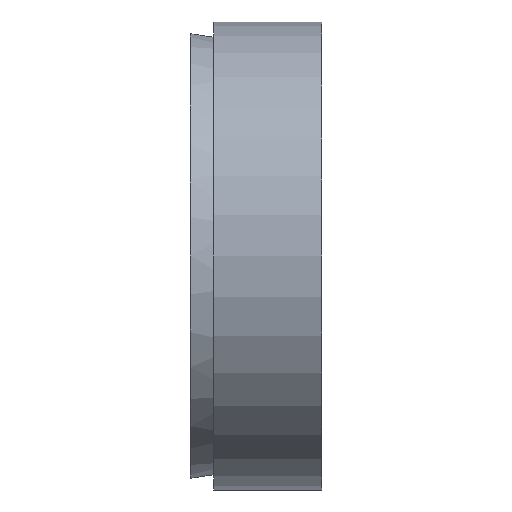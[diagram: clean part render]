
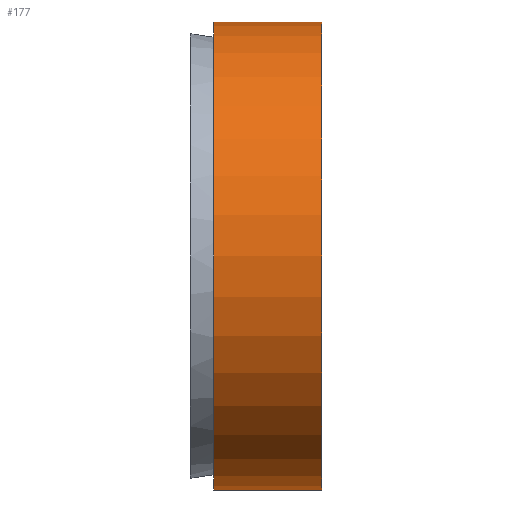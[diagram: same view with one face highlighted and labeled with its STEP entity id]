
A CAD part, front view. The second image highlights one B-rep face of the part: STEP entity #177.
In plain terms, the highlighted cylindrical face has radius 8 mm (diameter 16 mm), a partial arc.
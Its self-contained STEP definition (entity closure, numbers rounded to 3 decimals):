
#15 = VERTEX_POINT ( 'NONE', #137 ) ;
#17 = EDGE_CURVE ( 'NONE', #15, #18, #136, .T. ) ;
#18 = VERTEX_POINT ( 'NONE', #132 ) ;
#19 = VERTEX_POINT ( 'NONE', #131 ) ;
#112 = VERTEX_POINT ( 'NONE', #208 ) ;
#131 = CARTESIAN_POINT ( 'NONE',  ( 0.8, 0., 8. ) ) ;
#132 = CARTESIAN_POINT ( 'NONE',  ( 0.8, 0., -8. ) ) ;
#133 = DIRECTION ( 'NONE',  ( -1., 0., 0. ) ) ;
#134 = VECTOR ( 'NONE', #133, 1000. ) ;
#135 = CARTESIAN_POINT ( 'NONE',  ( 0., 0., -8. ) ) ;
#136 = LINE ( 'NONE', #135, #134 ) ;
#137 = CARTESIAN_POINT ( 'NONE',  ( 4.5, 0., -8. ) ) ;
#167 = EDGE_CURVE ( 'NONE', #112, #19, #298, .T. ) ;
#176 = EDGE_CURVE ( 'NONE', #18, #19, #265, .T. ) ;
#177 = ADVANCED_FACE ( 'NONE', ( #260 ), #259, .T. ) ;
#178 = EDGE_LOOP ( 'NONE', ( #179, #180, #206, #207 ) ) ;
#179 = ORIENTED_EDGE ( 'NONE', *, *, #17, .F. ) ;
#180 = ORIENTED_EDGE ( 'NONE', *, *, #181, .T. ) ;
#181 = EDGE_CURVE ( 'NONE', #15, #112, #253, .T. ) ;
#206 = ORIENTED_EDGE ( 'NONE', *, *, #167, .T. ) ;
#207 = ORIENTED_EDGE ( 'NONE', *, *, #176, .F. ) ;
#208 = CARTESIAN_POINT ( 'NONE',  ( 4.5, 0., 8. ) ) ;
#250 = DIRECTION ( 'NONE',  ( 0., 0., 1. ) ) ;
#251 = DIRECTION ( 'NONE',  ( -1., 0., 0. ) ) ;
#252 = AXIS2_PLACEMENT_3D ( 'NONE', #258, #251, #250 ) ;
#253 = CIRCLE ( 'NONE', #252, 8. ) ;
#254 = DIRECTION ( 'NONE',  ( 0., 0., 1. ) ) ;
#255 = DIRECTION ( 'NONE',  ( -1., 0., 0. ) ) ;
#256 = CARTESIAN_POINT ( 'NONE',  ( 0., 0., 0. ) ) ;
#257 = AXIS2_PLACEMENT_3D ( 'NONE', #256, #255, #254 ) ;
#258 = CARTESIAN_POINT ( 'NONE',  ( 4.5, 0., 0. ) ) ;
#259 = CYLINDRICAL_SURFACE ( 'NONE', #257, 8. ) ;
#260 = FACE_OUTER_BOUND ( 'NONE', #178, .T. ) ;
#261 = DIRECTION ( 'NONE',  ( 0., 0., 1. ) ) ;
#262 = DIRECTION ( 'NONE',  ( -1., 0., 0. ) ) ;
#263 = CARTESIAN_POINT ( 'NONE',  ( 0.8, 0., 0. ) ) ;
#264 = AXIS2_PLACEMENT_3D ( 'NONE', #263, #262, #261 ) ;
#265 = CIRCLE ( 'NONE', #264, 8. ) ;
#291 = DIRECTION ( 'NONE',  ( -1., 0., 0. ) ) ;
#292 = VECTOR ( 'NONE', #291, 1000. ) ;
#293 = CARTESIAN_POINT ( 'NONE',  ( 0., 0., 8. ) ) ;
#298 = LINE ( 'NONE', #293, #292 ) ;
